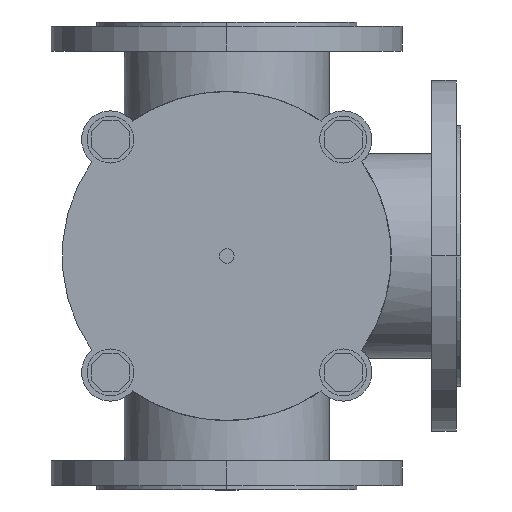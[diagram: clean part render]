
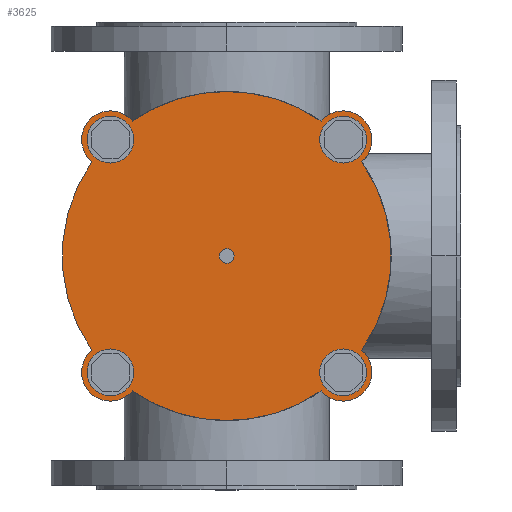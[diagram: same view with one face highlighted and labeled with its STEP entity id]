
A CAD part, front view. The second image highlights one B-rep face of the part: STEP entity #3625.
In plain terms, the highlighted planar face has unit normal (0, -1, 0).
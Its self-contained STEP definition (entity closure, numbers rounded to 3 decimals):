
#3177=CARTESIAN_POINT('',(79.55,-129.,259.237));
#3178=VERTEX_POINT('',#3177);
#3187=CARTESIAN_POINT('',(92.199,-129.,224.464));
#3188=VERTEX_POINT('',#3187);
#3189=CARTESIAN_POINT('',(79.55,-129.,239.55));
#3190=DIRECTION('',(0.0,1.0,0.0));
#3191=DIRECTION('',(0.0,0.0,-1.0));
#3192=AXIS2_PLACEMENT_3D('',#3189,#3190,#3191);
#3193=CIRCLE('',#3192,19.688);
#3194=EDGE_CURVE('',#3178,#3188,#3193,.T.);
#3240=CARTESIAN_POINT('',(-79.55,-129.,259.237));
#3241=VERTEX_POINT('',#3240);
#3250=CARTESIAN_POINT('',(-64.464,-129.,252.199));
#3251=VERTEX_POINT('',#3250);
#3252=CARTESIAN_POINT('',(-79.55,-129.,239.55));
#3253=DIRECTION('',(0.0,-1.0,0.0));
#3254=DIRECTION('',(0.0,0.0,-1.0));
#3255=AXIS2_PLACEMENT_3D('',#3252,#3253,#3254);
#3256=CIRCLE('',#3255,19.688);
#3257=EDGE_CURVE('',#3251,#3241,#3256,.T.);
#3282=CARTESIAN_POINT('',(0.,-129.,272.5));
#3283=VERTEX_POINT('',#3282);
#3292=CARTESIAN_POINT('',(64.464,-129.,252.199));
#3293=VERTEX_POINT('',#3292);
#3294=CARTESIAN_POINT('',(0.0,-129.,160.));
#3295=DIRECTION('',(0.0,-1.0,0.0));
#3296=DIRECTION('',(0.0,0.0,1.0));
#3297=AXIS2_PLACEMENT_3D('',#3294,#3295,#3296);
#3298=CIRCLE('',#3297,112.5);
#3299=EDGE_CURVE('',#3293,#3283,#3298,.T.);
#3345=CARTESIAN_POINT('',(79.55,-129.,60.763));
#3346=VERTEX_POINT('',#3345);
#3355=CARTESIAN_POINT('',(64.464,-129.,67.801));
#3356=VERTEX_POINT('',#3355);
#3357=CARTESIAN_POINT('',(79.55,-129.,80.45));
#3358=DIRECTION('',(0.0,-1.0,0.0));
#3359=DIRECTION('',(0.0,0.0,1.0));
#3360=AXIS2_PLACEMENT_3D('',#3357,#3358,#3359);
#3361=CIRCLE('',#3360,19.688);
#3362=EDGE_CURVE('',#3356,#3346,#3361,.T.);
#3389=CARTESIAN_POINT('',(0.,-129.,47.5));
#3390=VERTEX_POINT('',#3389);
#3405=CARTESIAN_POINT('',(0.0,-129.,160.));
#3406=DIRECTION('',(0.0,-1.0,0.0));
#3407=DIRECTION('',(0.0,0.0,1.0));
#3408=AXIS2_PLACEMENT_3D('',#3405,#3406,#3407);
#3409=CIRCLE('',#3408,112.5);
#3410=EDGE_CURVE('',#3390,#3356,#3409,.T.);
#3420=CARTESIAN_POINT('',(-79.55,-129.,60.763));
#3421=VERTEX_POINT('',#3420);
#3430=CARTESIAN_POINT('',(-92.199,-129.,95.536));
#3431=VERTEX_POINT('',#3430);
#3432=CARTESIAN_POINT('',(-79.55,-129.,80.45));
#3433=DIRECTION('',(0.0,1.0,0.0));
#3434=DIRECTION('',(0.0,0.0,1.0));
#3435=AXIS2_PLACEMENT_3D('',#3432,#3433,#3434);
#3436=CIRCLE('',#3435,19.688);
#3437=EDGE_CURVE('',#3421,#3431,#3436,.T.);
#3540=CARTESIAN_POINT('',(-64.464,-129.,67.801));
#3541=VERTEX_POINT('',#3540);
#3548=CARTESIAN_POINT('',(-79.55,-129.,80.45));
#3549=DIRECTION('',(0.0,1.0,0.0));
#3550=DIRECTION('',(0.0,0.0,1.0));
#3551=AXIS2_PLACEMENT_3D('',#3548,#3549,#3550);
#3552=CIRCLE('',#3551,19.688);
#3553=EDGE_CURVE('',#3541,#3421,#3552,.T.);
#3558=CARTESIAN_POINT('',(79.55,-129.,239.55));
#3559=DIRECTION('',(0.0,1.0,0.0));
#3560=DIRECTION('',(0.0,0.0,1.0));
#3561=AXIS2_PLACEMENT_3D('',#3558,#3559,#3560);
#3562=PLANE('',#3561);
#3563=CARTESIAN_POINT('',(0.0,-129.,160.));
#3564=DIRECTION('',(0.0,-1.0,0.0));
#3565=DIRECTION('',(0.0,0.0,1.0));
#3566=AXIS2_PLACEMENT_3D('',#3563,#3564,#3565);
#3567=CIRCLE('',#3566,112.5);
#3568=EDGE_CURVE('',#3541,#3390,#3567,.T.);
#3569=ORIENTED_EDGE('',*,*,#3568,.T.);
#3570=ORIENTED_EDGE('',*,*,#3410,.T.);
#3571=ORIENTED_EDGE('',*,*,#3362,.T.);
#3572=CARTESIAN_POINT('',(92.199,-129.,95.536));
#3573=VERTEX_POINT('',#3572);
#3574=CARTESIAN_POINT('',(79.55,-129.,80.45));
#3575=DIRECTION('',(0.0,-1.0,0.0));
#3576=DIRECTION('',(0.0,0.0,1.0));
#3577=AXIS2_PLACEMENT_3D('',#3574,#3575,#3576);
#3578=CIRCLE('',#3577,19.688);
#3579=EDGE_CURVE('',#3346,#3573,#3578,.T.);
#3580=ORIENTED_EDGE('',*,*,#3579,.T.);
#3581=CARTESIAN_POINT('',(0.0,-129.,160.));
#3582=DIRECTION('',(0.0,-1.0,0.0));
#3583=DIRECTION('',(0.0,0.0,1.0));
#3584=AXIS2_PLACEMENT_3D('',#3581,#3582,#3583);
#3585=CIRCLE('',#3584,112.5);
#3586=EDGE_CURVE('',#3573,#3188,#3585,.T.);
#3587=ORIENTED_EDGE('',*,*,#3586,.T.);
#3588=ORIENTED_EDGE('',*,*,#3194,.F.);
#3589=CARTESIAN_POINT('',(79.55,-129.,239.55));
#3590=DIRECTION('',(0.0,1.0,0.0));
#3591=DIRECTION('',(0.0,0.0,-1.0));
#3592=AXIS2_PLACEMENT_3D('',#3589,#3590,#3591);
#3593=CIRCLE('',#3592,19.688);
#3594=EDGE_CURVE('',#3293,#3178,#3593,.T.);
#3595=ORIENTED_EDGE('',*,*,#3594,.F.);
#3596=ORIENTED_EDGE('',*,*,#3299,.T.);
#3597=CARTESIAN_POINT('',(0.0,-129.,160.));
#3598=DIRECTION('',(0.0,-1.0,0.0));
#3599=DIRECTION('',(0.0,0.0,1.0));
#3600=AXIS2_PLACEMENT_3D('',#3597,#3598,#3599);
#3601=CIRCLE('',#3600,112.5);
#3602=EDGE_CURVE('',#3283,#3251,#3601,.T.);
#3603=ORIENTED_EDGE('',*,*,#3602,.T.);
#3604=ORIENTED_EDGE('',*,*,#3257,.T.);
#3605=CARTESIAN_POINT('',(-92.199,-129.,224.464));
#3606=VERTEX_POINT('',#3605);
#3607=CARTESIAN_POINT('',(-79.55,-129.,239.55));
#3608=DIRECTION('',(0.0,-1.0,0.0));
#3609=DIRECTION('',(0.0,0.0,-1.0));
#3610=AXIS2_PLACEMENT_3D('',#3607,#3608,#3609);
#3611=CIRCLE('',#3610,19.688);
#3612=EDGE_CURVE('',#3241,#3606,#3611,.T.);
#3613=ORIENTED_EDGE('',*,*,#3612,.T.);
#3614=CARTESIAN_POINT('',(0.0,-129.,160.));
#3615=DIRECTION('',(0.0,-1.0,0.0));
#3616=DIRECTION('',(0.0,0.0,1.0));
#3617=AXIS2_PLACEMENT_3D('',#3614,#3615,#3616);
#3618=CIRCLE('',#3617,112.5);
#3619=EDGE_CURVE('',#3606,#3431,#3618,.T.);
#3620=ORIENTED_EDGE('',*,*,#3619,.T.);
#3621=ORIENTED_EDGE('',*,*,#3437,.F.);
#3622=ORIENTED_EDGE('',*,*,#3553,.F.);
#3623=EDGE_LOOP('',(#3569,#3570,#3571,#3580,#3587,#3588,#3595,#3596,#3603,#3604,#3613,#3620,#3621,#3622));
#3624=FACE_OUTER_BOUND('',#3623,.T.);
#3625=ADVANCED_FACE('',(#3624),#3562,.F.);
